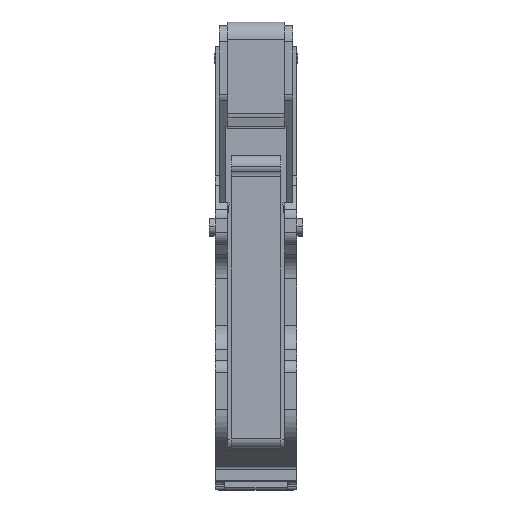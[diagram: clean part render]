
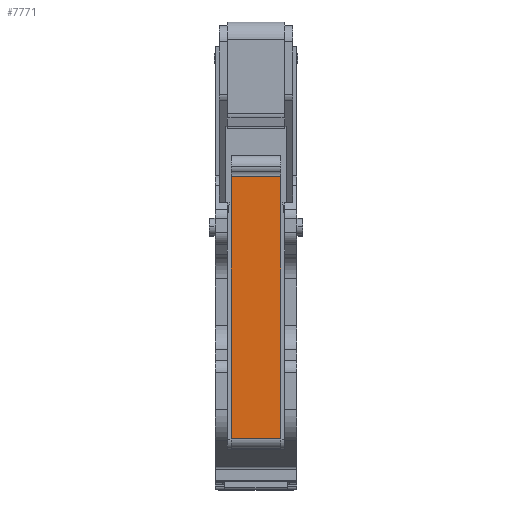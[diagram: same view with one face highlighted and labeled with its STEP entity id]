
A CAD part, top view. The second image highlights one B-rep face of the part: STEP entity #7771.
In plain terms, the highlighted planar face has unit normal (0, 0, 1).
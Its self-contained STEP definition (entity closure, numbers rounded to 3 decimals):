
#171 = AXIS2_PLACEMENT_3D ( 'NONE', #4769, #6524, #2059 ) ;
#179 = CARTESIAN_POINT ( 'NONE',  ( 97.281, -53.097, 113.2 ) ) ;
#312 = DIRECTION ( 'NONE',  ( 0., 1., 0. ) ) ;
#642 = ORIENTED_EDGE ( 'NONE', *, *, #3288, .T. ) ;
#751 = PLANE ( 'NONE',  #171 ) ;
#888 = LINE ( 'NONE', #4202, #8876 ) ;
#913 = EDGE_CURVE ( 'NONE', #5642, #7220, #888, .T. ) ;
#1152 = CARTESIAN_POINT ( 'NONE',  ( 7.55, -53.097, 113.2 ) ) ;
#1876 = DIRECTION ( 'NONE',  ( -1., 0., 0. ) ) ;
#2059 = DIRECTION ( 'NONE',  ( 1., 0., 0. ) ) ;
#2148 = CARTESIAN_POINT ( 'NONE',  ( 7.55, 26.728, 113.2 ) ) ;
#2758 = DIRECTION ( 'NONE',  ( -1., 0., 0. ) ) ;
#2958 = VECTOR ( 'NONE', #5891, 1000. ) ;
#3288 = EDGE_CURVE ( 'NONE', #7031, #4100, #9567, .T. ) ;
#3946 = CARTESIAN_POINT ( 'NONE',  ( 97.281, 26.728, 113.2 ) ) ;
#4100 = VERTEX_POINT ( 'NONE', #2148 ) ;
#4202 = CARTESIAN_POINT ( 'NONE',  ( -7.55, 26.164, 113.2 ) ) ;
#4472 = EDGE_CURVE ( 'NONE', #7031, #5642, #4749, .T. ) ;
#4625 = VECTOR ( 'NONE', #2758, 1000. ) ;
#4693 = EDGE_CURVE ( 'NONE', #4100, #7220, #7305, .T. ) ;
#4749 = LINE ( 'NONE', #179, #4625 ) ;
#4769 = CARTESIAN_POINT ( 'NONE',  ( 97.281, 26.164, 113.2 ) ) ;
#5319 = ORIENTED_EDGE ( 'NONE', *, *, #4472, .F. ) ;
#5536 = CARTESIAN_POINT ( 'NONE',  ( -7.55, 26.728, 113.2 ) ) ;
#5642 = VERTEX_POINT ( 'NONE', #6123 ) ;
#5891 = DIRECTION ( 'NONE',  ( 0., 1., 0. ) ) ;
#6123 = CARTESIAN_POINT ( 'NONE',  ( -7.55, -53.097, 113.2 ) ) ;
#6524 = DIRECTION ( 'NONE',  ( 0., 0., 1. ) ) ;
#6640 = FACE_OUTER_BOUND ( 'NONE', #7723, .T. ) ;
#6830 = ORIENTED_EDGE ( 'NONE', *, *, #913, .F. ) ;
#7031 = VERTEX_POINT ( 'NONE', #1152 ) ;
#7220 = VERTEX_POINT ( 'NONE', #5536 ) ;
#7305 = LINE ( 'NONE', #3946, #7389 ) ;
#7389 = VECTOR ( 'NONE', #1876, 1000. ) ;
#7723 = EDGE_LOOP ( 'NONE', ( #9756, #6830, #5319, #642 ) ) ;
#7771 = ADVANCED_FACE ( 'NONE', ( #6640 ), #751, .T. ) ;
#8876 = VECTOR ( 'NONE', #312, 1000. ) ;
#9318 = CARTESIAN_POINT ( 'NONE',  ( 7.55, 26.164, 113.2 ) ) ;
#9567 = LINE ( 'NONE', #9318, #2958 ) ;
#9756 = ORIENTED_EDGE ( 'NONE', *, *, #4693, .T. ) ;
